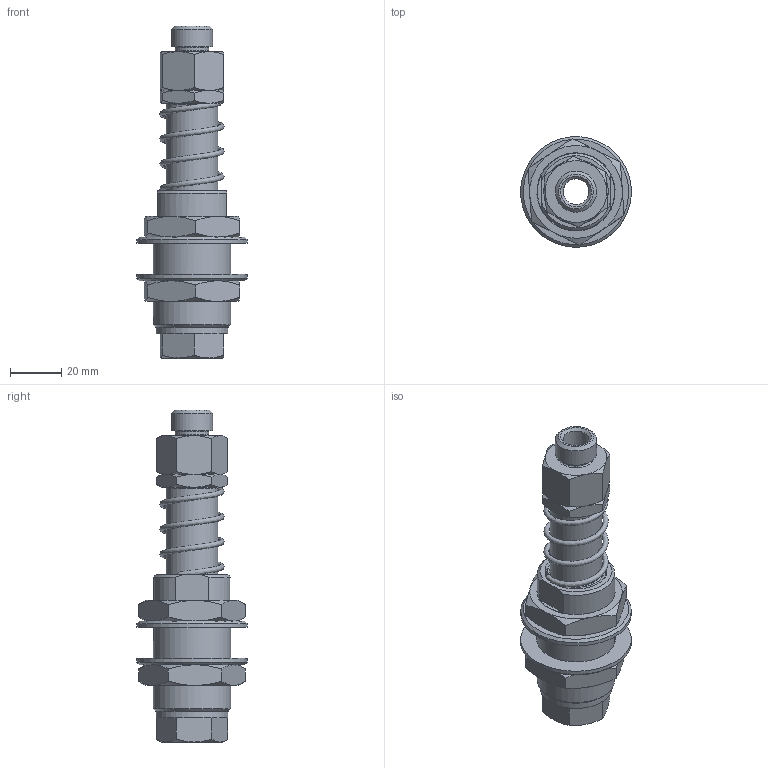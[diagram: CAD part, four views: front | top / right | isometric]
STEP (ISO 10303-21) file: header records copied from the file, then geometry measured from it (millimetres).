
FILE_DESCRIPTION((''),'2;1');
FILE_NAME('W:\Technik\Konstruktion\CAD-Daten\Vakuumkomponenten\50... - 55\50.372\50.372-KD.stp','2014-10-14T10:14:31',('RKob'),(''),'Autodesk Inventor 2012','Autodesk Inventor 2012','');
FILE_SCHEMA(('AUTOMOTIVE_DESIGN { 1 0 10303 214 1 1 1 1 }'));
Length unit declared in the file: millimetre
Products named in the file (11): 50; WSM-2023-12; D-239A-01; 270
Assembly tree (13 placements, depth 3):
  50
    50
      50
      WSM-2023-12  x2
      50
      50
      50  x2
      50  x2
      D-239A-01
      50
    270
Bounding box: 43 x 43 x 129 mm (x, y, z)
Volume: 62921.2 mm3; surface area: 43077.6 mm2
Topology: 12 solids, 12 shells, 209 faces, 415 edges, 245 vertices
Faces by surface type: cone 87, plane 75, cylinder 34, torus 12, bspline 1
Full cylindrical faces by diameter (mm): 10 x2, 12 x1, 13 x2, 13.917 x1, 14.5 x1, 14.95 x2, 15 x1, 16 x1, 16.66 x1, 17 x2, 18 x1, 18.917 x1, 20 x4, 20.5 x2, 23 x4, 28 x1, 28.376 x2, 30 x1, 30.5 x2, 43 x2
Entity records: 4896 total; most frequent: CARTESIAN_POINT 1414, DIRECTION 718, ORIENTED_EDGE 546, AXIS2_PLACEMENT_3D 339, EDGE_CURVE 273, EDGE_LOOP 271, VERTEX_POINT 198, FACE_OUTER_BOUND 174
